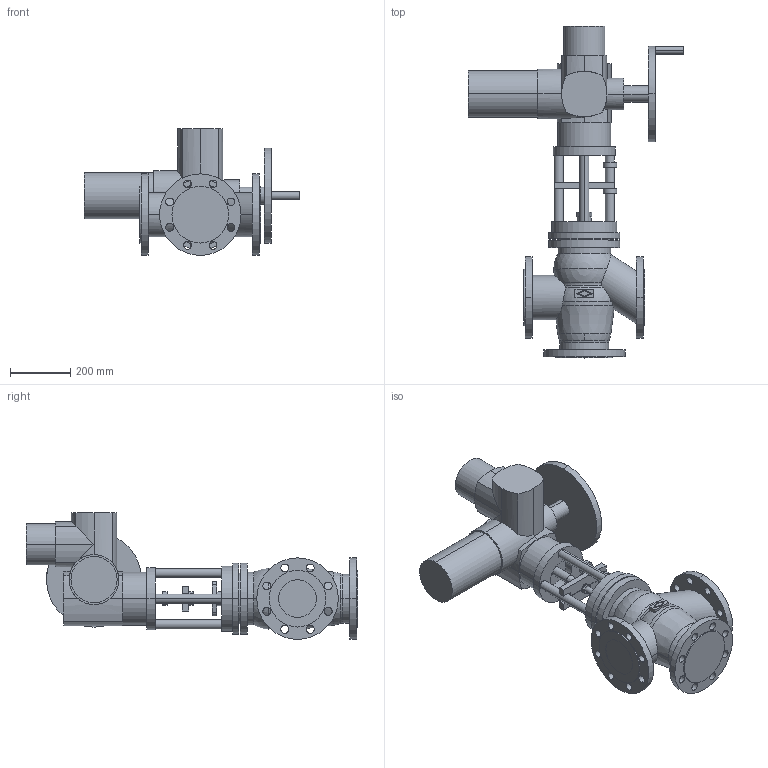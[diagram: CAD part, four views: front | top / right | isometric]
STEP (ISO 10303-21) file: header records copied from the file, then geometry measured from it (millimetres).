
FILE_DESCRIPTION(('OneSpaceDesigner STEP Export'),'2;1');
FILE_NAME('c000003181.stp','2007-01-24T11:03:40',(''),(''),'OneSpace Designer STEP processor for AP214 (Solid Model)','OneSpace Designer 14.00B 27-May-2006 (C) CoCreate Software GmbH','');
FILE_SCHEMA(('AUTOMOTIVE_DESIGN { 1 0 10303 214 1 1 1 1 }'));
Length unit declared in the file: millimetre
Products named in the file (2): 1; 2
Bounding box: 713 x 1099 x 420 mm (x, y, z)
Volume: 43974086.4 mm3; surface area: 1763385.7 mm2
Topology: 2 solids, 2 shells, 283 faces, 714 edges, 456 vertices
Faces by surface type: cylinder 159, plane 102, torus 8, sphere 8, cone 6
Entity records: 7996 total; most frequent: CARTESIAN_POINT 1858, ORIENTED_EDGE 1412, DIRECTION 1082, EDGE_CURVE 706, VERTEX_POINT 456, AXIS2_PLACEMENT_3D 389, EDGE_LOOP 368, VECTOR 304
